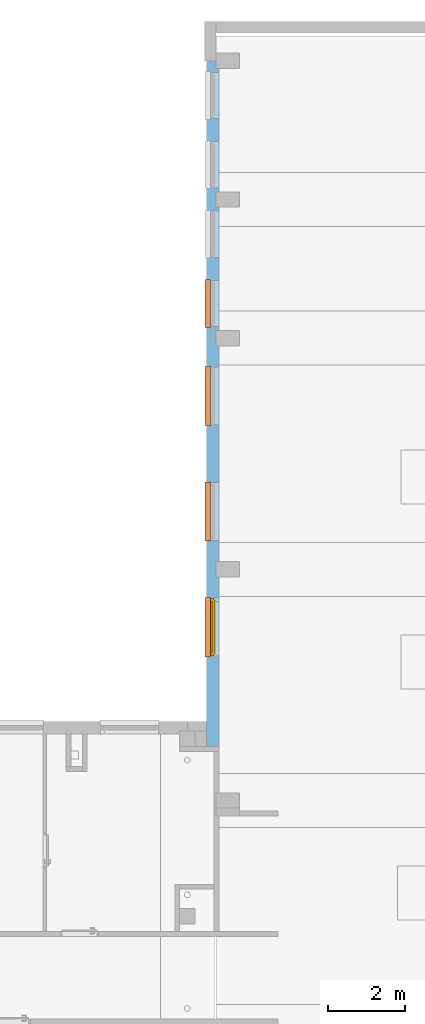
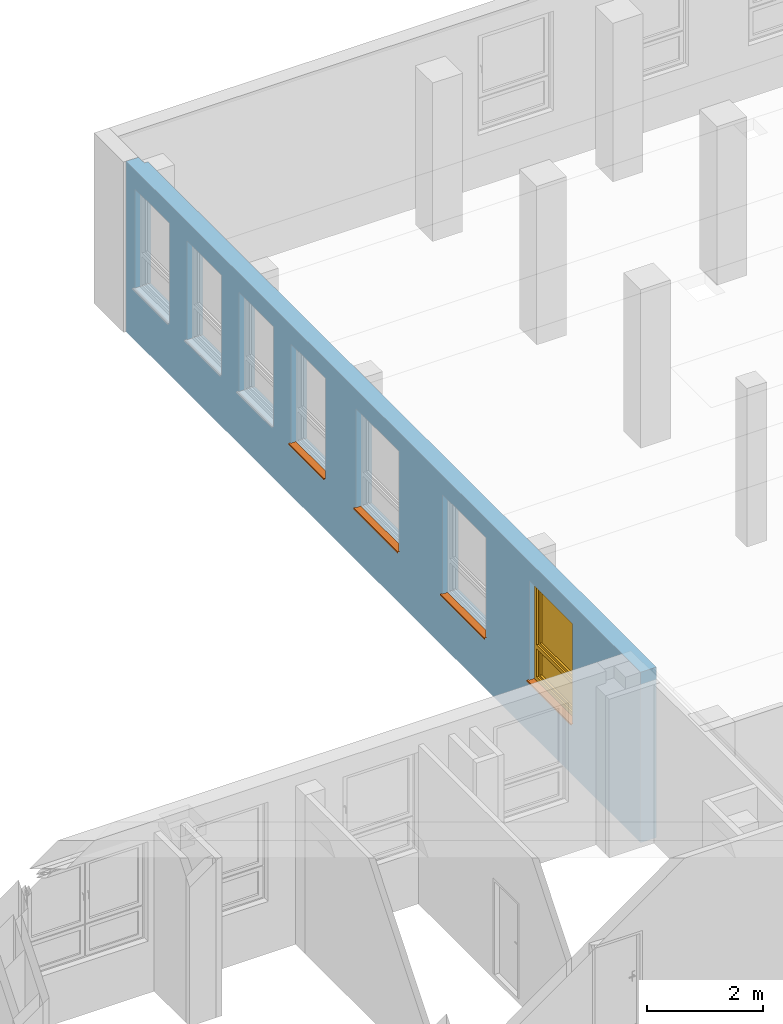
# One storey, part 44 of 50: 4 proxies, 1 window, 7 openings, plus 1 element that does not belong to this part.
"""IFC4 building model written with IfcOpenShell, lengths in metres."""

from ifc_helpers import new_model, entity, si_unit, converted_unit, derived_unit, frame, origin, origin_with_axes, place, context, subcontext, project, spatial, polyline, outline, extrude, clip, bounded_halfspace, closed_shell, open_shell, faceted_brep, surface_model, source, transform, mapped, material, layer, layer_set, layer_usage, element, fill, save


model = new_model("IFC4")

# Units and contexts
model_context = context("Model", 3, precision=1e-05, world=origin())
body_context = subcontext(model_context, "Body", "Model", "MODEL_VIEW")
ifc_project = project(units=[si_unit("LENGTHUNIT", "METRE"), si_unit("AREAUNIT", "SQUARE_METRE"), si_unit("VOLUMEUNIT", "CUBIC_METRE"), si_unit("MASSUNIT", "GRAM", prefix="KILO"), converted_unit("PLANEANGLEUNIT", "DEGREE", entity("IfcPlaneAngleMeasure", 0.0174532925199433), si_unit("PLANEANGLEUNIT", "RADIAN"), dimensions=[0, 0, 0, 0, 0, 0, 0]), derived_unit("THERMALTRANSMITTANCEUNIT", [(si_unit("POWERUNIT", "WATT"), 1), (si_unit("THERMODYNAMICTEMPERATUREUNIT", "KELVIN"), -1), (si_unit("LENGTHUNIT", "METRE"), -2)]), derived_unit("VOLUMETRICFLOWRATEUNIT", [(si_unit("LENGTHUNIT", "METRE"), 3), (converted_unit("TIMEUNIT", "hour", entity("IfcTimeMeasure", 3600.0), si_unit("TIMEUNIT", "SECOND"), dimensions=[0, 0, 1, 0, 0, 0, 0]), -1), (si_unit("LENGTHUNIT", "METRE"), -1)])], contexts=[model_context])

# Site, building, storey
site_placement = place(None, origin())
site = spatial("IfcSite", under=ifc_project, at=site_placement, Name="3. ASŘ", CompositionType="ELEMENT")
building_placement = place(site_placement, origin())
building = spatial("IfcBuilding", under=site, at=building_placement, Name="Pavilon C", CompositionType="ELEMENT")
storey_placement = place(building_placement, frame((0.0, 0.0, 3.6)))
storey = spatial("IfcBuildingStorey", under=building, at=storey_placement, Name="Půdorys 2.NP", CompositionType="ELEMENT", Elevation=3.6)

# Wall, openings, window, proxies
ifc_material_1 = material(Name="ZELEZOBETONOVÁ KCE")
ifc_layer = layer(ifc_material_1, 0.32)
ifc_layer_set = layer_set([ifc_layer])
ifc_layer_usage = layer_usage(ifc_layer_set, "AXIS2", "POSITIVE", 0.0)
wall_placement = place(storey_placement, frame((24.5, 32.4, -0.1), z_axis=(0.0, 0.0, 1.0), x_axis=(-2.04380831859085e-16, -1.0, 0.0)))
wall = element("IfcWall", 1, at=wall_placement, inside=storey, material=ifc_layer_usage, Name="ZELEZOBETONOVÁ KCE", context=body_context, shape_type="Clipping", body=[
    clip(clip(clip(extrude(outline(polyline([(-17.8, 0.0), (0.0, 0.0), (-6.54018661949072e-17, 0.32), (-17.6, 0.32), (-17.6, 0.25), (-17.8, 0.25), (-17.8, 0.0)])), frame((17.8, 0.0, 0.0), z_axis=(0.0, 0.0, 1.0), x_axis=(1.0, 0.0, 0.0)), (0.0, 0.0, 1.0), 3.6), bounded_halfspace(frame((3.6, 0.285000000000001, 3.35), z_axis=(0.0, 0.0, 1.0), x_axis=(2.04380831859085e-16, -1.0, 0.0)), True, origin_with_axes(), polyline([(3.4, 0.320000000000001), (3.4, 0.250000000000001), (3.8, 0.250000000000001), (3.8, 0.320000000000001), (3.4, 0.320000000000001)]))), bounded_halfspace(frame((7.2, 0.285000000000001, 3.35), z_axis=(0.0, 0.0, 1.0), x_axis=(2.04380831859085e-16, -1.0, 0.0)), True, origin_with_axes(), polyline([(7.0, 0.320000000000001), (7.0, 0.250000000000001), (7.4, 0.250000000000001), (7.4, 0.320000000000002), (7.0, 0.320000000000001)]))), bounded_halfspace(frame((13.2, 0.285000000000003, 3.35), z_axis=(0.0, 0.0, 1.0), x_axis=(2.04380831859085e-16, -1.0, 0.0)), True, origin_with_axes(), polyline([(13.0, 0.320000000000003), (13.0, 0.250000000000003), (13.4, 0.250000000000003), (13.4, 0.320000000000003), (13.0, 0.320000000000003)]))),
])
opening_1_placement = place(wall_placement, frame((13.95, -7.86866202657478e-16, 1.1), z_axis=(0.0, 1.0, 0.0), x_axis=(0.0, 0.0, 1.0)))
opening_1 = element("IfcOpeningElement", 2, at=opening_1_placement, cuts=wall, Name="Okenní otvor", ObjectType="Opening", context=body_context, shape_type="SweptSolid", body=[
    extrude(outline(polyline([(0.0, 1.5), (2.1, 1.5), (2.1, 0.0), (0.0, 0.0), (0.0, 1.5)])), origin_with_axes(), (0.0, 0.0, 1.0), 0.32),
])
opening_2_placement = place(wall_placement, frame((10.95, -1.40000869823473e-15, 1.1), z_axis=(0.0, 1.0, 0.0), x_axis=(0.0, 0.0, 1.0)))
opening_2 = element("IfcOpeningElement", 3, at=opening_2_placement, cuts=wall, Name="Okenní otvor", ObjectType="Opening", context=body_context, shape_type="SweptSolid", body=[
    extrude(outline(polyline([(0.0, 1.5), (2.1, 1.5), (2.1, 0.0), (0.0, 0.0), (0.0, 1.5)])), origin_with_axes(), (0.0, 0.0, 1.0), 0.32),
])
opening_3_placement = place(wall_placement, frame((7.95, -2.01315119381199e-15, 1.1), z_axis=(0.0, 1.0, 0.0), x_axis=(0.0, 0.0, 1.0)))
opening_3 = element("IfcOpeningElement", 4, at=opening_3_placement, cuts=wall, Name="Okenní otvor", ObjectType="Opening", context=body_context, shape_type="SweptSolid", body=[
    extrude(outline(polyline([(0.0, 1.5), (2.1, 1.5), (2.1, 0.0), (0.0, 0.0), (0.0, 1.5)])), origin_with_axes(), (0.0, 0.0, 1.0), 0.320000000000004),
])
opening_4_placement = place(wall_placement, frame((5.7, 1.16497074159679e-15, 1.1), z_axis=(0.0, 1.0, 0.0), x_axis=(0.0, 0.0, 1.0)))
opening_4 = element("IfcOpeningElement", 5, at=opening_4_placement, cuts=wall, Name="Okenní otvor", ObjectType="Opening", context=body_context, shape_type="SweptSolid", body=[
    extrude(outline(polyline([(0.0, 1.2), (2.1, 1.2), (2.1, 0.0), (0.0, 0.0), (0.0, 1.2)])), origin_with_axes(), (0.0, 0.0, 1.0), 0.32),
])
opening_5_placement = place(wall_placement, frame((3.90000000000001, 7.97085244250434e-16, 1.1), z_axis=(0.0, 1.0, 0.0), x_axis=(0.0, 0.0, 1.0)))
element("IfcOpeningElement", 6, at=opening_5_placement, cuts=wall, Name="Okenní otvor", ObjectType="Opening", context=body_context, shape_type="SweptSolid", body=[
    extrude(outline(polyline([(0.0, 1.2), (2.1, 1.2), (2.1, 0.0), (0.0, 0.0), (0.0, 1.2)])), origin_with_axes(), (0.0, 0.0, 1.0), 0.32),
])
opening_6_placement = place(wall_placement, frame((2.10000000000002, 4.29199746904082e-16, 1.1), z_axis=(0.0, 1.0, 0.0), x_axis=(0.0, 0.0, 1.0)))
element("IfcOpeningElement", 7, at=opening_6_placement, cuts=wall, Name="Okenní otvor", ObjectType="Opening", context=body_context, shape_type="SweptSolid", body=[
    extrude(outline(polyline([(0.0, 1.2), (2.1, 1.2), (2.1, 0.0), (0.0, 0.0), (0.0, 1.2)])), origin_with_axes(), (0.0, 0.0, 1.0), 0.32),
])
opening_7_placement = place(wall_placement, frame((0.300000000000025, 6.13142495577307e-17, 1.1), z_axis=(-1.77635683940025e-16, 1.0, 0.0), x_axis=(0.0, 0.0, 1.0)))
element("IfcOpeningElement", 8, at=opening_7_placement, cuts=wall, Name="Okenní otvor", ObjectType="Opening", context=body_context, shape_type="SweptSolid", body=[
    extrude(outline(polyline([(0.0, 1.2), (2.1, 1.2), (2.1, 0.0), (0.0, 0.0), (0.0, 1.2)])), origin_with_axes(), (0.0, 0.0, 1.0), 0.32),
])
shared_shape_1 = source(origin_with_axes(), body_context, "Body", "SurfaceModel", [
    surface_model("IfcShellBasedSurfaceModel", [(0.0, 0.182, 2.1), (0.0, 0.182, -5.63337527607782e-18), (0.08, 0.182, -5.63337527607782e-18), (0.08, 0.182, 2.1), (0.0, 0.0899999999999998, 5.63337527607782e-18), (0.0, 0.0900000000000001, 2.1), (0.08, 0.0900000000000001, 2.1), (0.08, 0.0899999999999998, 5.63337527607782e-18)], [closed_shell([[[0, 1, 2, 3]], [[4, 5, 6, 7]], [[1, 0, 5, 4]], [[2, 1, 4, 7]], [[3, 2, 7, 6]], [[0, 3, 6, 5]]], orient=[[False], [False], [False], [False], [False], [False]])]),
    surface_model("IfcShellBasedSurfaceModel", [(1.42, 0.182, 2.1), (1.42, 0.182, -5.63337527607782e-18), (1.5, 0.182, -5.63337527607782e-18), (1.5, 0.182, 2.1), (1.42, 0.0899999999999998, 5.63337527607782e-18), (1.42, 0.0900000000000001, 2.1), (1.5, 0.0900000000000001, 2.1), (1.5, 0.0899999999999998, 5.63337527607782e-18)], [closed_shell([[[0, 1, 2, 3]], [[4, 5, 6, 7]], [[1, 0, 5, 4]], [[2, 1, 4, 7]], [[3, 2, 7, 6]], [[0, 3, 6, 5]]], orient=[[False], [False], [False], [False], [False], [False]])]),
    surface_model("IfcShellBasedSurfaceModel", [(0.08, 0.182, 0.08), (0.08, 0.182, -5.63337527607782e-18), (1.42, 0.182, -5.63337527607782e-18), (1.42, 0.182, 0.08), (0.08, 0.0899999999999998, 5.63337527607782e-18), (0.08, 0.0899999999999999, 0.08), (1.42, 0.0899999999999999, 0.08), (1.42, 0.0899999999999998, 5.63337527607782e-18)], [closed_shell([[[0, 1, 2, 3]], [[4, 5, 6, 7]], [[1, 0, 5, 4]], [[2, 1, 4, 7]], [[3, 2, 7, 6]], [[0, 3, 6, 5]]], orient=[[False], [False], [False], [False], [False], [False]])]),
    surface_model("IfcShellBasedSurfaceModel", [(0.08, 0.182, 2.1), (0.08, 0.182, 2.02), (1.42, 0.182, 2.02), (1.42, 0.182, 2.1), (0.08, 0.0900000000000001, 2.02), (0.08, 0.0900000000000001, 2.1), (1.42, 0.0900000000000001, 2.1), (1.42, 0.0900000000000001, 2.02)], [closed_shell([[[0, 1, 2, 3]], [[4, 5, 6, 7]], [[1, 0, 5, 4]], [[2, 1, 4, 7]], [[3, 2, 7, 6]], [[0, 3, 6, 5]]], orient=[[False], [False], [False], [False], [False], [False]])]),
    surface_model("IfcShellBasedSurfaceModel", [(0.08, 0.182, 0.76), (0.08, 0.182, 0.68), (1.42, 0.182, 0.68), (1.42, 0.182, 0.76), (0.08, 0.0899999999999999, 0.68), (0.08, 0.0899999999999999, 0.76), (1.42, 0.0899999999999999, 0.76), (1.42, 0.0899999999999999, 0.68)], [closed_shell([[[0, 1, 2, 3]], [[4, 5, 6, 7]], [[1, 0, 5, 4]], [[2, 1, 4, 7]], [[3, 2, 7, 6]], [[0, 3, 6, 5]]], orient=[[False], [False], [False], [False], [False], [False]])]),
    surface_model("IfcShellBasedSurfaceModel", [(0.05, 0.145, 0.71), (0.05, 0.145, 0.05), (0.13, 0.145, 0.05), (0.13, 0.145, 0.71), (0.05, 0.0599999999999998, 0.05), (0.05, 0.0599999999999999, 0.71), (0.13, 0.0599999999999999, 0.71), (0.13, 0.0599999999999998, 0.05)], [closed_shell([[[0, 1, 2, 3]], [[4, 5, 6, 7]], [[1, 0, 5, 4]], [[2, 1, 4, 7]], [[3, 2, 7, 6]], [[0, 3, 6, 5]]], orient=[[False], [False], [False], [False], [False], [False]])]),
    surface_model("IfcShellBasedSurfaceModel", [(1.37, 0.145, 0.71), (1.37, 0.145, 0.05), (1.45, 0.145, 0.05), (1.45, 0.145, 0.71), (1.37, 0.0599999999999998, 0.05), (1.37, 0.0599999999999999, 0.71), (1.45, 0.0599999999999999, 0.71), (1.45, 0.0599999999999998, 0.05)], [closed_shell([[[0, 1, 2, 3]], [[4, 5, 6, 7]], [[1, 0, 5, 4]], [[2, 1, 4, 7]], [[3, 2, 7, 6]], [[0, 3, 6, 5]]], orient=[[False], [False], [False], [False], [False], [False]])]),
    surface_model("IfcShellBasedSurfaceModel", [(0.13, 0.145, 0.13), (0.13, 0.145, 0.05), (1.37, 0.145, 0.05), (1.37, 0.145, 0.13), (0.13, 0.0599999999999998, 0.05), (0.13, 0.0599999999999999, 0.13), (1.37, 0.0599999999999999, 0.13), (1.37, 0.0599999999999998, 0.05)], [closed_shell([[[0, 1, 2, 3]], [[4, 5, 6, 7]], [[1, 0, 5, 4]], [[2, 1, 4, 7]], [[3, 2, 7, 6]], [[0, 3, 6, 5]]], orient=[[False], [False], [False], [False], [False], [False]])]),
    surface_model("IfcShellBasedSurfaceModel", [(0.13, 0.145, 0.71), (0.13, 0.145, 0.63), (1.37, 0.145, 0.63), (1.37, 0.145, 0.71), (0.13, 0.0599999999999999, 0.63), (0.13, 0.0599999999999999, 0.71), (1.37, 0.0599999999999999, 0.71), (1.37, 0.0599999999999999, 0.63)], [closed_shell([[[0, 1, 2, 3]], [[4, 5, 6, 7]], [[1, 0, 5, 4]], [[2, 1, 4, 7]], [[3, 2, 7, 6]], [[0, 3, 6, 5]]], orient=[[False], [False], [False], [False], [False], [False]])]),
    surface_model("IfcShellBasedSurfaceModel", [(0.05, 0.145, 2.05), (0.05, 0.145, 0.73), (0.13, 0.145, 0.73), (0.13, 0.145, 2.05), (0.05, 0.0599999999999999, 0.73), (0.05, 0.0600000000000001, 2.05), (0.13, 0.0600000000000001, 2.05), (0.13, 0.0599999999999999, 0.73)], [closed_shell([[[0, 1, 2, 3]], [[4, 5, 6, 7]], [[1, 0, 5, 4]], [[2, 1, 4, 7]], [[3, 2, 7, 6]], [[0, 3, 6, 5]]], orient=[[False], [False], [False], [False], [False], [False]])]),
    surface_model("IfcShellBasedSurfaceModel", [(1.37, 0.145, 2.05), (1.37, 0.145, 0.73), (1.45, 0.145, 0.73), (1.45, 0.145, 2.05), (1.37, 0.0599999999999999, 0.73), (1.37, 0.0600000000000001, 2.05), (1.45, 0.0600000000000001, 2.05), (1.45, 0.0599999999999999, 0.73)], [closed_shell([[[0, 1, 2, 3]], [[4, 5, 6, 7]], [[1, 0, 5, 4]], [[2, 1, 4, 7]], [[3, 2, 7, 6]], [[0, 3, 6, 5]]], orient=[[False], [False], [False], [False], [False], [False]])]),
    surface_model("IfcShellBasedSurfaceModel", [(0.13, 0.145, 0.81), (0.13, 0.145, 0.73), (1.37, 0.145, 0.73), (1.37, 0.145, 0.81), (0.13, 0.0599999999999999, 0.73), (0.13, 0.0599999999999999, 0.81), (1.37, 0.0599999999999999, 0.81), (1.37, 0.0599999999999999, 0.73)], [closed_shell([[[0, 1, 2, 3]], [[4, 5, 6, 7]], [[1, 0, 5, 4]], [[2, 1, 4, 7]], [[3, 2, 7, 6]], [[0, 3, 6, 5]]], orient=[[False], [False], [False], [False], [False], [False]])]),
    surface_model("IfcShellBasedSurfaceModel", [(0.13, 0.145, 2.05), (0.13, 0.145, 1.97), (1.37, 0.145, 1.97), (1.37, 0.145, 2.05), (0.13, 0.0600000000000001, 1.97), (0.13, 0.0600000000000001, 2.05), (1.37, 0.0600000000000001, 2.05), (1.37, 0.0600000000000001, 1.97)], [closed_shell([[[0, 1, 2, 3]], [[4, 5, 6, 7]], [[1, 0, 5, 4]], [[2, 1, 4, 7]], [[3, 2, 7, 6]], [[0, 3, 6, 5]]], orient=[[False], [False], [False], [False], [False], [False]])]),
    surface_model("IfcShellBasedSurfaceModel", [(0.0775, 0.06, 1.41), (0.0775, 0.06, 1.37), (0.1025, 0.06, 1.37), (0.1025, 0.06, 1.41), (0.0775, 0.05, 1.37), (0.0775, 0.05, 1.41), (0.1025, 0.05, 1.41), (0.1025, 0.05, 1.37)], [closed_shell([[[0, 1, 2, 3]], [[4, 5, 6, 7]], [[1, 0, 5, 4]], [[2, 1, 4, 7]], [[3, 2, 7, 6]], [[0, 3, 6, 5]]], orient=[[False], [False], [False], [False], [False], [False]])]),
    surface_model("IfcShellBasedSurfaceModel", [(0.1, 0.05, 1.39), (0.0986602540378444, 0.05, 1.395), (0.095, 0.05, 1.39866025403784), (0.09, 0.05, 1.4), (0.085, 0.05, 1.39866025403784), (0.0813397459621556, 0.05, 1.395), (0.08, 0.05, 1.39), (0.0813397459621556, 0.05, 1.385), (0.085, 0.05, 1.38133974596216), (0.09, 0.05, 1.38), (0.095, 0.05, 1.38133974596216), (0.0986602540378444, 0.05, 1.385), (0.1, 0.01, 1.39), (0.0986602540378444, 0.00500000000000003, 1.395), (0.095, 0.00133974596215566, 1.39866025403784), (0.09, 2.8421709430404e-17, 1.4), (0.085, 0.00133974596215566, 1.39866025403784), (0.0813397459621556, 0.00500000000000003, 1.395), (0.08, 0.01, 1.39), (0.0813397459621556, 0.015, 1.385), (0.085, 0.0186602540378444, 1.38133974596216), (0.09, 0.02, 1.38), (0.095, 0.0186602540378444, 1.38133974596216), (0.0986602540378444, 0.015, 1.385), (0.1, 0.01, 1.275), (0.0986602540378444, 0.005, 1.275), (0.095, 0.00133974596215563, 1.275), (0.09, 0.0, 1.275), (0.085, 0.00133974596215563, 1.275), (0.0813397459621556, 0.005, 1.275), (0.08, 0.01, 1.275), (0.0813397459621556, 0.015, 1.275), (0.085, 0.0186602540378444, 1.275), (0.09, 0.02, 1.275), (0.095, 0.0186602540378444, 1.275), (0.0986602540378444, 0.015, 1.275)], [open_shell([[[0, 1, 2, 3, 4, 5, 6, 7, 8, 9, 10, 11]], [[0, 12, 13, 1]], [[1, 13, 14, 2]], [[2, 14, 15, 3]], [[3, 15, 16, 4]], [[4, 16, 17, 5]], [[5, 17, 18, 6]], [[6, 18, 19, 7]], [[7, 19, 20, 8]], [[8, 20, 21, 9]], [[9, 21, 22, 10]], [[10, 22, 23, 11]], [[11, 23, 12, 0]], [[12, 24, 25, 13]], [[13, 25, 26, 14]], [[14, 26, 27, 15]], [[15, 27, 28, 16]], [[16, 28, 29, 17]], [[17, 29, 30, 18]], [[18, 30, 31, 19]], [[19, 31, 32, 20]], [[20, 32, 33, 21]], [[21, 33, 34, 22]], [[22, 34, 35, 23]], [[23, 35, 24, 12]]], orient=[[False], [False], [False], [False], [False], [False], [False], [False], [False], [False], [False], [False], [False], [False], [False], [False], [False], [False], [False], [False], [False], [False], [False], [False], [False]])]),
    surface_model("IfcShellBasedSurfaceModel", [(0.13, 0.1025, 0.13), (1.37, 0.1025, 0.13), (1.37, 0.1025, 0.63), (0.13, 0.1025, 0.63)], [open_shell([[[0, 1, 2, 3]]], orient=[[False]])]),
    surface_model("IfcShellBasedSurfaceModel", [(0.13, 0.1025, 0.81), (1.37, 0.1025, 0.81), (1.37, 0.1025, 1.97), (0.13, 0.1025, 1.97)], [open_shell([[[0, 1, 2, 3]]], orient=[[False]])]),
])
window_placement = place(opening_1_placement, frame((0.0, 7.27595761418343e-15, 0.281999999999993), z_axis=(1.0, 0.0, 0.0), x_axis=(0.0, 1.0, 8.19161519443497e-17)))
window = element("IfcWindow", 9, at=window_placement, inside=storey, Name="O06", OverallHeight=2.1, OverallWidth=1.5, PartitioningType="USERDEFINED", PredefinedType="WINDOW", context=body_context, shape_type="MappedRepresentation", body=[
    mapped(shared_shape_1, transform((0.0, 0.0, 0.0), x_axis=(1.0, 0.0, 0.0), y_axis=(0.0, -1.0, 0.0), z_axis=(0.0, 0.0, 1.0), scale=1.0)),
])
fill(opening_1, window)
ifc_material_2 = material(Name="PLECH")
shared_shape_2 = source(origin_with_axes(), body_context, "Body", "Brep", [
    faceted_brep([(7.27595761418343e-15, -7.27595761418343e-15, 0.0), (7.27595761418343e-15, 0.0999999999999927, 0.0), (7.27595761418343e-15, 0.0999999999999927, 0.005), (7.27595761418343e-15, -7.27595761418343e-15, 0.005), (1.50000000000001, -7.27595761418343e-15, 0.0), (1.50000000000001, -7.27595761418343e-15, 0.005), (1.50000000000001, 0.0999999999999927, 0.005), (1.50000000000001, 0.0999999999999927, 0.0), (-0.0199999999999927, -7.27595761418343e-15, 0.0), (-0.0199999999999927, -0.0350000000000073, 0.0), (1.52000000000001, -0.0350000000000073, 0.0), (1.52000000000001, -7.27595761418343e-15, 0.0), (1.52000000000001, -7.27595761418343e-15, 0.005), (1.52000000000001, -0.0400000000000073, 0.005), (-0.0199999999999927, -0.0400000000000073, 0.005), (-0.0199999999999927, -7.27595761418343e-15, 0.005), (-0.0199999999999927, -0.0400000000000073, -0.025), (-0.0199999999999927, -0.0350000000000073, -0.025), (1.52000000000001, -0.0350000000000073, -0.025), (1.52000000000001, -0.0400000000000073, -0.025)], [[[0, 1, 2, 3]], [[4, 5, 6, 7]], [[1, 0, 8, 9, 10, 11, 4, 7]], [[2, 1, 7, 6]], [[3, 2, 6, 5, 12, 13, 14, 15]], [[8, 15, 14, 16, 17, 9]], [[11, 10, 18, 19, 13, 12]], [[15, 8, 0, 3]], [[5, 4, 11, 12]], [[16, 14, 13, 19]], [[17, 16, 19, 18]], [[9, 17, 18, 10]]], orient=[[False], [False], [False], [False], [False], [False], [False], [False], [False], [False], [False], [False]]),
    faceted_brep([(-0.0199999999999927, -7.27595761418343e-15, 0.0), (-0.0199999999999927, 0.0999999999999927, 0.0), (-0.0199999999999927, 0.0999999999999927, 0.005), (-0.0199999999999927, -7.27595761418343e-15, 0.005), (7.27595761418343e-15, -7.27595761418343e-15, 0.0), (7.27595761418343e-15, -7.27595761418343e-15, 0.005), (7.27595761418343e-15, 0.0999999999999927, 0.005), (7.27595761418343e-15, 0.0999999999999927, 0.0)], [[[0, 1, 2, 3]], [[4, 5, 6, 7]], [[1, 0, 4, 7]], [[2, 1, 7, 6]], [[3, 2, 6, 5]], [[0, 3, 5, 4]]], orient=[[False], [False], [False], [False], [False], [False]]),
    faceted_brep([(1.50000000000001, -7.27595761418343e-15, 0.0), (1.50000000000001, 0.0999999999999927, 0.0), (1.50000000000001, 0.0999999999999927, 0.005), (1.50000000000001, -7.27595761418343e-15, 0.005), (1.52000000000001, -7.27595761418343e-15, 0.0), (1.52000000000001, -7.27595761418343e-15, 0.005), (1.52000000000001, 0.0999999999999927, 0.005), (1.52000000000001, 0.0999999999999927, 0.0)], [[[0, 1, 2, 3]], [[4, 5, 6, 7]], [[1, 0, 4, 7]], [[2, 1, 7, 6]], [[3, 2, 6, 5]], [[0, 3, 5, 4]]], orient=[[False], [False], [False], [False], [False], [False]]),
])
proxy_1_placement = place(opening_1_placement, frame((0.0, 0.0, 0.0), z_axis=(1.0, 0.0, 0.0), x_axis=(0.0, 1.0, 0.0)))
proxy_1 = element("IfcBuildingElementProxy", 10, at=proxy_1_placement, inside=storey, material=ifc_material_2, Name="Parapet vnější", context=body_context, shape_type="MappedRepresentation", body=[
    mapped(shared_shape_2, transform((0.0, 0.0, 0.0), x_axis=(1.0, 0.0, 0.0), y_axis=(0.0, 1.0, 0.0), z_axis=(0.0, 0.0, 1.0), scale=1.0)),
])
fill(opening_1, proxy_1)
ifc_material_3 = material(Name="PLECH")
shared_shape_3 = source(origin_with_axes(), body_context, "Body", "Brep", [
    faceted_brep([(7.27595761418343e-15, -7.27595761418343e-15, 0.0), (7.27595761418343e-15, 0.0999999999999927, 0.0), (7.27595761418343e-15, 0.0999999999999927, 0.005), (7.27595761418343e-15, -7.27595761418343e-15, 0.005), (1.50000000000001, -7.27595761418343e-15, 0.0), (1.50000000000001, -7.27595761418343e-15, 0.005), (1.50000000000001, 0.0999999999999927, 0.005), (1.50000000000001, 0.0999999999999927, 0.0), (-0.0199999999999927, -7.27595761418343e-15, 0.0), (-0.0199999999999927, -0.0350000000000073, 0.0), (1.52000000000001, -0.0350000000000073, 0.0), (1.52000000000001, -7.27595761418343e-15, 0.0), (1.52000000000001, -7.27595761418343e-15, 0.005), (1.52000000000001, -0.0400000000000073, 0.005), (-0.0199999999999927, -0.0400000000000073, 0.005), (-0.0199999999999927, -7.27595761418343e-15, 0.005), (-0.0199999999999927, -0.0400000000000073, -0.025), (-0.0199999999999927, -0.0350000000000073, -0.025), (1.52000000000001, -0.0350000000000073, -0.025), (1.52000000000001, -0.0400000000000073, -0.025)], [[[0, 1, 2, 3]], [[4, 5, 6, 7]], [[1, 0, 8, 9, 10, 11, 4, 7]], [[2, 1, 7, 6]], [[3, 2, 6, 5, 12, 13, 14, 15]], [[8, 15, 14, 16, 17, 9]], [[11, 10, 18, 19, 13, 12]], [[15, 8, 0, 3]], [[5, 4, 11, 12]], [[16, 14, 13, 19]], [[17, 16, 19, 18]], [[9, 17, 18, 10]]], orient=[[False], [False], [False], [False], [False], [False], [False], [False], [False], [False], [False], [False]]),
    faceted_brep([(-0.0199999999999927, -7.27595761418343e-15, 0.0), (-0.0199999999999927, 0.0999999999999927, 0.0), (-0.0199999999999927, 0.0999999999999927, 0.005), (-0.0199999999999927, -7.27595761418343e-15, 0.005), (7.27595761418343e-15, -7.27595761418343e-15, 0.0), (7.27595761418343e-15, -7.27595761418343e-15, 0.005), (7.27595761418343e-15, 0.0999999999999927, 0.005), (7.27595761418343e-15, 0.0999999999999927, 0.0)], [[[0, 1, 2, 3]], [[4, 5, 6, 7]], [[1, 0, 4, 7]], [[2, 1, 7, 6]], [[3, 2, 6, 5]], [[0, 3, 5, 4]]], orient=[[False], [False], [False], [False], [False], [False]]),
    faceted_brep([(1.50000000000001, -7.27595761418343e-15, 0.0), (1.50000000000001, 0.0999999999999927, 0.0), (1.50000000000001, 0.0999999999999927, 0.005), (1.50000000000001, -7.27595761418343e-15, 0.005), (1.52000000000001, -7.27595761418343e-15, 0.0), (1.52000000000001, -7.27595761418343e-15, 0.005), (1.52000000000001, 0.0999999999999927, 0.005), (1.52000000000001, 0.0999999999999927, 0.0)], [[[0, 1, 2, 3]], [[4, 5, 6, 7]], [[1, 0, 4, 7]], [[2, 1, 7, 6]], [[3, 2, 6, 5]], [[0, 3, 5, 4]]], orient=[[False], [False], [False], [False], [False], [False]]),
])
proxy_2_placement = place(opening_2_placement, frame((0.0, 0.0, 0.0), z_axis=(1.0, 0.0, 0.0), x_axis=(0.0, 1.0, 0.0)))
proxy_2 = element("IfcBuildingElementProxy", 11, at=proxy_2_placement, inside=storey, material=ifc_material_3, Name="Parapet vnější", context=body_context, shape_type="MappedRepresentation", body=[
    mapped(shared_shape_3, transform((0.0, 0.0, 0.0), x_axis=(1.0, 0.0, 0.0), y_axis=(0.0, 1.0, 0.0), z_axis=(0.0, 0.0, 1.0), scale=1.0)),
])
fill(opening_2, proxy_2)
ifc_material_4 = material(Name="PLECH")
shared_shape_4 = source(origin_with_axes(), body_context, "Body", "Brep", [
    faceted_brep([(7.27595761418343e-15, -7.27595761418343e-15, 0.0), (7.27595761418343e-15, 0.0999999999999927, 0.0), (7.27595761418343e-15, 0.0999999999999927, 0.005), (7.27595761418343e-15, -7.27595761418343e-15, 0.005), (1.50000000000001, -7.27595761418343e-15, 0.0), (1.50000000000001, -7.27595761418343e-15, 0.005), (1.50000000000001, 0.0999999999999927, 0.005), (1.50000000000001, 0.0999999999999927, 0.0), (-0.0199999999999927, -7.27595761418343e-15, 0.0), (-0.0199999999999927, -0.0350000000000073, 0.0), (1.52000000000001, -0.0350000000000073, 0.0), (1.52000000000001, -7.27595761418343e-15, 0.0), (1.52000000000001, -7.27595761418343e-15, 0.005), (1.52000000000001, -0.0400000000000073, 0.005), (-0.0199999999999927, -0.0400000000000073, 0.005), (-0.0199999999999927, -7.27595761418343e-15, 0.005), (-0.0199999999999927, -0.0400000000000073, -0.025), (-0.0199999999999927, -0.0350000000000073, -0.025), (1.52000000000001, -0.0350000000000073, -0.025), (1.52000000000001, -0.0400000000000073, -0.025)], [[[0, 1, 2, 3]], [[4, 5, 6, 7]], [[1, 0, 8, 9, 10, 11, 4, 7]], [[2, 1, 7, 6]], [[3, 2, 6, 5, 12, 13, 14, 15]], [[8, 15, 14, 16, 17, 9]], [[11, 10, 18, 19, 13, 12]], [[15, 8, 0, 3]], [[5, 4, 11, 12]], [[16, 14, 13, 19]], [[17, 16, 19, 18]], [[9, 17, 18, 10]]], orient=[[False], [False], [False], [False], [False], [False], [False], [False], [False], [False], [False], [False]]),
    faceted_brep([(-0.0199999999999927, -7.27595761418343e-15, 0.0), (-0.0199999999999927, 0.0999999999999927, 0.0), (-0.0199999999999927, 0.0999999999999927, 0.005), (-0.0199999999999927, -7.27595761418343e-15, 0.005), (7.27595761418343e-15, -7.27595761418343e-15, 0.0), (7.27595761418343e-15, -7.27595761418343e-15, 0.005), (7.27595761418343e-15, 0.0999999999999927, 0.005), (7.27595761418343e-15, 0.0999999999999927, 0.0)], [[[0, 1, 2, 3]], [[4, 5, 6, 7]], [[1, 0, 4, 7]], [[2, 1, 7, 6]], [[3, 2, 6, 5]], [[0, 3, 5, 4]]], orient=[[False], [False], [False], [False], [False], [False]]),
    faceted_brep([(1.50000000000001, -7.27595761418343e-15, 0.0), (1.50000000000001, 0.0999999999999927, 0.0), (1.50000000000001, 0.0999999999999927, 0.005), (1.50000000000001, -7.27595761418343e-15, 0.005), (1.52000000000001, -7.27595761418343e-15, 0.0), (1.52000000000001, -7.27595761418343e-15, 0.005), (1.52000000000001, 0.0999999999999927, 0.005), (1.52000000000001, 0.0999999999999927, 0.0)], [[[0, 1, 2, 3]], [[4, 5, 6, 7]], [[1, 0, 4, 7]], [[2, 1, 7, 6]], [[3, 2, 6, 5]], [[0, 3, 5, 4]]], orient=[[False], [False], [False], [False], [False], [False]]),
])
proxy_3_placement = place(opening_3_placement, frame((0.0, 0.0, 0.0), z_axis=(1.0, 0.0, 0.0), x_axis=(0.0, 1.0, 0.0)))
proxy_3 = element("IfcBuildingElementProxy", 12, at=proxy_3_placement, inside=storey, material=ifc_material_4, Name="Parapet vnější", context=body_context, shape_type="MappedRepresentation", body=[
    mapped(shared_shape_4, transform((0.0, 0.0, 0.0), x_axis=(1.0, 0.0, 0.0), y_axis=(0.0, 1.0, 0.0), z_axis=(0.0, 0.0, 1.0), scale=1.0)),
])
fill(opening_3, proxy_3)
ifc_material_5 = material(Name="PLECH")
shared_shape_5 = source(origin_with_axes(), body_context, "Body", "Brep", [
    faceted_brep([(7.27595761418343e-15, -7.27595761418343e-15, 0.0), (7.27595761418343e-15, 0.0999999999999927, 0.0), (7.27595761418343e-15, 0.0999999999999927, 0.005), (7.27595761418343e-15, -7.27595761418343e-15, 0.005), (1.20000000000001, -7.27595761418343e-15, 0.0), (1.20000000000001, -7.27595761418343e-15, 0.005), (1.20000000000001, 0.0999999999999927, 0.005), (1.20000000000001, 0.0999999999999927, 0.0), (-0.0199999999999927, -1.09139364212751e-14, 0.0), (-0.0199999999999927, -0.0350000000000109, 0.0), (1.22000000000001, -0.0350000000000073, 0.0), (1.22000000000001, -7.27595761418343e-15, 0.0), (1.22000000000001, -7.27595761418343e-15, 0.005), (1.22000000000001, -0.0400000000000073, 0.005), (-0.0199999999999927, -0.0400000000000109, 0.005), (-0.0199999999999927, -1.09139364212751e-14, 0.005), (-0.0199999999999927, -0.0400000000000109, -0.025), (-0.0199999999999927, -0.0350000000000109, -0.025), (1.22000000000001, -0.0350000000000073, -0.025), (1.22000000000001, -0.0400000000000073, -0.025)], [[[0, 1, 2, 3]], [[4, 5, 6, 7]], [[1, 0, 8, 9, 10, 11, 4, 7]], [[2, 1, 7, 6]], [[3, 2, 6, 5, 12, 13, 14, 15]], [[8, 15, 14, 16, 17, 9]], [[11, 10, 18, 19, 13, 12]], [[15, 8, 0, 3]], [[5, 4, 11, 12]], [[16, 14, 13, 19]], [[17, 16, 19, 18]], [[9, 17, 18, 10]]], orient=[[False], [False], [False], [False], [False], [False], [False], [False], [False], [False], [False], [False]]),
    faceted_brep([(-0.0199999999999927, -1.09139364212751e-14, 0.0), (-0.0199999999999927, 0.0999999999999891, 0.0), (-0.0199999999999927, 0.0999999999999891, 0.005), (-0.0199999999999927, -1.09139364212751e-14, 0.005), (7.27595761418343e-15, -7.27595761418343e-15, 0.0), (7.27595761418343e-15, -7.27595761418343e-15, 0.005), (7.27595761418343e-15, 0.0999999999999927, 0.005), (7.27595761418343e-15, 0.0999999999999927, 0.0)], [[[0, 1, 2, 3]], [[4, 5, 6, 7]], [[1, 0, 4, 7]], [[2, 1, 7, 6]], [[3, 2, 6, 5]], [[0, 3, 5, 4]]], orient=[[False], [False], [False], [False], [False], [False]]),
    faceted_brep([(1.20000000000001, -7.27595761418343e-15, 0.0), (1.20000000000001, 0.0999999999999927, 0.0), (1.20000000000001, 0.0999999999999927, 0.005), (1.20000000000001, -7.27595761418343e-15, 0.005), (1.22000000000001, -7.27595761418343e-15, 0.0), (1.22000000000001, -7.27595761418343e-15, 0.005), (1.22000000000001, 0.0999999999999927, 0.005), (1.22000000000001, 0.0999999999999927, 0.0)], [[[0, 1, 2, 3]], [[4, 5, 6, 7]], [[1, 0, 4, 7]], [[2, 1, 7, 6]], [[3, 2, 6, 5]], [[0, 3, 5, 4]]], orient=[[False], [False], [False], [False], [False], [False]]),
])
proxy_4_placement = place(opening_4_placement, frame((0.0, 0.0, 0.0), z_axis=(1.0, 0.0, 0.0), x_axis=(0.0, 1.0, 0.0)))
proxy_4 = element("IfcBuildingElementProxy", 13, at=proxy_4_placement, inside=storey, material=ifc_material_5, Name="Parapet vnější", context=body_context, shape_type="MappedRepresentation", body=[
    mapped(shared_shape_5, transform((0.0, 0.0, 0.0), x_axis=(1.0, 0.0, 0.0), y_axis=(0.0, 1.0, 0.0), z_axis=(0.0, 0.0, 1.0), scale=1.0)),
])
fill(opening_4, proxy_4)

save(model, "model.ifc")
